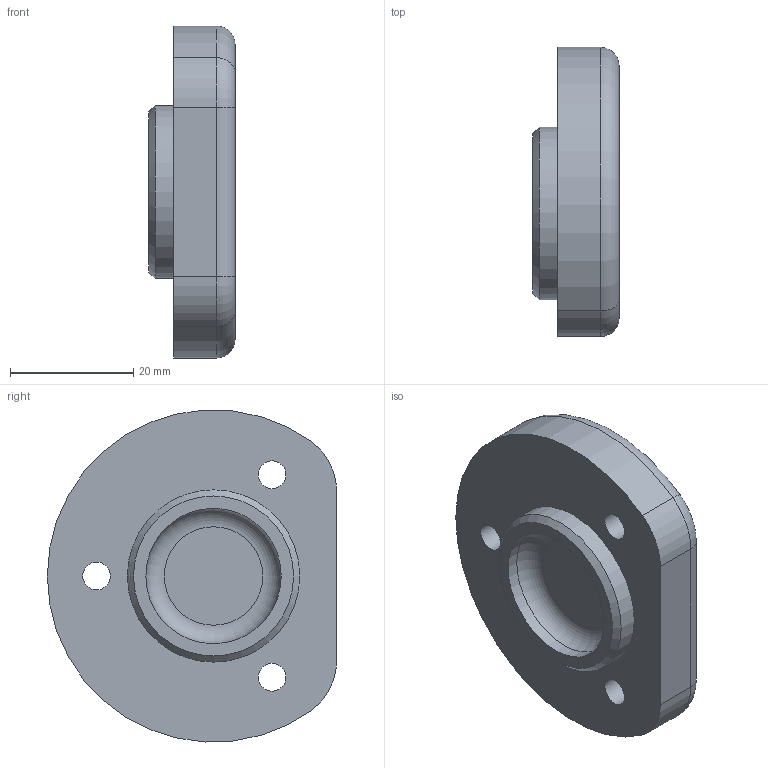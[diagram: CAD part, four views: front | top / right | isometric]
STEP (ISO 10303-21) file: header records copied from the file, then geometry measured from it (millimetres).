
FILE_DESCRIPTION(/* description */ (''),/* implementation_level */ '2;1');
FILE_NAME(/* name */ '',/* time_stamp */ '2026-07-31T13:46:50+09:00',/* author */ ('jhkim'),/* organization */ (''),/* preprocessor_version */ 'ST-DEVELOPER v20.1',/* originating_system */ 'Autodesk Inventor 2027',/* authorisation */ '');
FILE_SCHEMA (('AUTOMOTIVE_DESIGN { 1 0 10303 214 3 1 1 }'));
Length unit declared in the file: millimetre
Products named in the file (1): 하부 커버
Bounding box: 14 x 47 x 53.94 mm (x, y, z)
Volume: 20505.1 mm3; surface area: 6680.4 mm2
Topology: 1 solids, 1 shells, 25 faces, 50 edges, 32 vertices
Faces by surface type: cylinder 12, plane 8, torus 4, cone 1
Full cylindrical faces by diameter (mm): 4.5 x3, 8 x3, 22 x1, 28 x1
Entity records: 721 total; most frequent: DIRECTION 136, CARTESIAN_POINT 108, ORIENTED_EDGE 100, AXIS2_PLACEMENT_3D 60, EDGE_CURVE 50, EDGE_LOOP 36, CIRCLE 34, VERTEX_POINT 32
